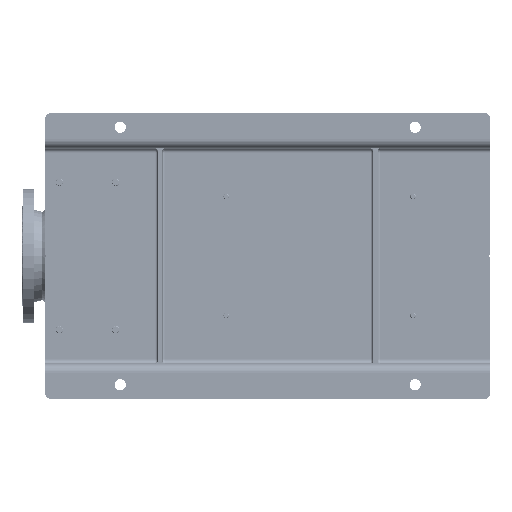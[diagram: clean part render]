
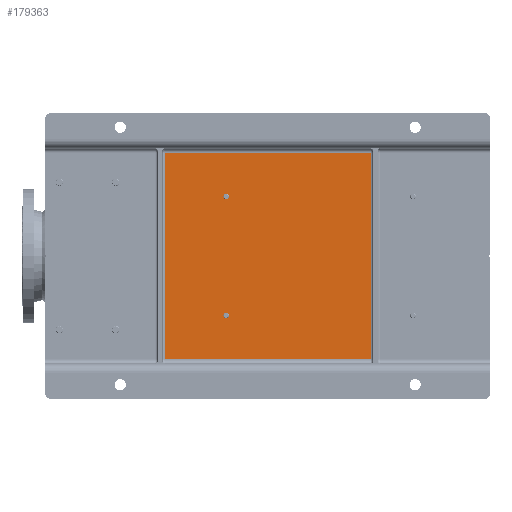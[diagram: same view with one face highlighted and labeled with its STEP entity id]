
A CAD part, front view. The second image highlights one B-rep face of the part: STEP entity #179363.
In plain terms, the highlighted planar face has unit normal (0, -1, 0).
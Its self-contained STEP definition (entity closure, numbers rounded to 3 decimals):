
#1017 = CARTESIAN_POINT ( 'NONE',  ( 432., 65., -380.5 ) ) ;
#2815 = AXIS2_PLACEMENT_3D ( 'NONE', #70438, #12275, #151343 ) ;
#12275 = DIRECTION ( 'NONE',  ( 0., 1., 0. ) ) ;
#23509 = EDGE_CURVE ( 'NONE', #174437, #98859, #147092, .T. ) ;
#25110 = VECTOR ( 'NONE', #171066, 1000. ) ;
#27944 = CARTESIAN_POINT ( 'NONE',  ( 432., 65., -386.5 ) ) ;
#28864 = CIRCLE ( 'NONE', #194423, 6. ) ;
#31185 = CARTESIAN_POINT ( 'NONE',  ( 178., 65., -392.5 ) ) ;
#34035 = EDGE_CURVE ( 'NONE', #98859, #134956, #142361, .T. ) ;
#36905 = PLANE ( 'NONE',  #76645 ) ;
#39398 = FACE_OUTER_BOUND ( 'NONE', #173946, .T. ) ;
#40285 = CIRCLE ( 'NONE', #129098, 6. ) ;
#45772 = VERTEX_POINT ( 'NONE', #181820 ) ;
#46215 = CARTESIAN_POINT ( 'NONE',  ( 525., 65., -250. ) ) ;
#48282 = CARTESIAN_POINT ( 'NONE',  ( 85., 65., -695. ) ) ;
#49402 = ORIENTED_EDGE ( 'NONE', *, *, #190220, .T. ) ;
#50211 = EDGE_LOOP ( 'NONE', ( #181242, #49402 ) ) ;
#55866 = FACE_BOUND ( 'NONE', #50211, .T. ) ;
#63226 = EDGE_CURVE ( 'NONE', #45772, #174437, #154667, .T. ) ;
#64311 = CARTESIAN_POINT ( 'NONE',  ( 525., 65., -255. ) ) ;
#70438 = CARTESIAN_POINT ( 'NONE',  ( 178., 65., -386.5 ) ) ;
#72034 = AXIS2_PLACEMENT_3D ( 'NONE', #77641, #197414, #101262 ) ;
#76645 = AXIS2_PLACEMENT_3D ( 'NONE', #133016, #116539, #210188 ) ;
#77496 = CARTESIAN_POINT ( 'NONE',  ( 85., 65., -700. ) ) ;
#77641 = CARTESIAN_POINT ( 'NONE',  ( 432., 65., -386.5 ) ) ;
#78524 = VERTEX_POINT ( 'NONE', #94211 ) ;
#94211 = CARTESIAN_POINT ( 'NONE',  ( 178., 65., -380.5 ) ) ;
#94581 = VECTOR ( 'NONE', #228688, 1000. ) ;
#98859 = VERTEX_POINT ( 'NONE', #109197 ) ;
#101262 = DIRECTION ( 'NONE',  ( 0., 0., 1. ) ) ;
#103245 = VECTOR ( 'NONE', #133179, 1000. ) ;
#106141 = ORIENTED_EDGE ( 'NONE', *, *, #63226, .T. ) ;
#109197 = CARTESIAN_POINT ( 'NONE',  ( 525., 65., -695. ) ) ;
#112878 = CARTESIAN_POINT ( 'NONE',  ( 75., 65., -695. ) ) ;
#113800 = ORIENTED_EDGE ( 'NONE', *, *, #23509, .T. ) ;
#116539 = DIRECTION ( 'NONE',  ( 0., -1., 0. ) ) ;
#120513 = VERTEX_POINT ( 'NONE', #31185 ) ;
#121729 = DIRECTION ( 'NONE',  ( 0., 0., -1. ) ) ;
#122969 = CARTESIAN_POINT ( 'NONE',  ( 178., 65., -386.5 ) ) ;
#123345 = DIRECTION ( 'NONE',  ( 0., 0., 1. ) ) ;
#128990 = ORIENTED_EDGE ( 'NONE', *, *, #216149, .T. ) ;
#129098 = AXIS2_PLACEMENT_3D ( 'NONE', #27944, #222705, #180985 ) ;
#133016 = CARTESIAN_POINT ( 'NONE',  ( 75., 65., -950. ) ) ;
#133179 = DIRECTION ( 'NONE',  ( 0., 0., -1. ) ) ;
#134956 = VERTEX_POINT ( 'NONE', #64311 ) ;
#142361 = LINE ( 'NONE', #46215, #153186 ) ;
#142496 = ORIENTED_EDGE ( 'NONE', *, *, #34035, .T. ) ;
#147092 = LINE ( 'NONE', #112878, #25110 ) ;
#151343 = DIRECTION ( 'NONE',  ( 0., 0., -1. ) ) ;
#153186 = VECTOR ( 'NONE', #123345, 1000. ) ;
#154667 = LINE ( 'NONE', #77496, #103245 ) ;
#166715 = EDGE_LOOP ( 'NONE', ( #193597, #205179 ) ) ;
#171066 = DIRECTION ( 'NONE',  ( 1., 0., 0. ) ) ;
#173946 = EDGE_LOOP ( 'NONE', ( #106141, #113800, #142496, #128990 ) ) ;
#174437 = VERTEX_POINT ( 'NONE', #48282 ) ;
#174938 = VERTEX_POINT ( 'NONE', #1017 ) ;
#176501 = VERTEX_POINT ( 'NONE', #182709 ) ;
#179363 = ADVANCED_FACE ( 'NONE', ( #212682, #55866, #39398 ), #36905, .T. ) ;
#180985 = DIRECTION ( 'NONE',  ( 0., 0., 1. ) ) ;
#181070 = CIRCLE ( 'NONE', #72034, 6. ) ;
#181242 = ORIENTED_EDGE ( 'NONE', *, *, #210693, .T. ) ;
#181820 = CARTESIAN_POINT ( 'NONE',  ( 85., 65., -255. ) ) ;
#182709 = CARTESIAN_POINT ( 'NONE',  ( 432., 65., -392.5 ) ) ;
#190220 = EDGE_CURVE ( 'NONE', #120513, #78524, #237123, .T. ) ;
#193597 = ORIENTED_EDGE ( 'NONE', *, *, #224283, .T. ) ;
#194423 = AXIS2_PLACEMENT_3D ( 'NONE', #122969, #236770, #121729 ) ;
#197414 = DIRECTION ( 'NONE',  ( 0., 1., 0. ) ) ;
#205179 = ORIENTED_EDGE ( 'NONE', *, *, #241404, .T. ) ;
#210188 = DIRECTION ( 'NONE',  ( 0., 0., -1. ) ) ;
#210693 = EDGE_CURVE ( 'NONE', #78524, #120513, #28864, .T. ) ;
#212682 = FACE_BOUND ( 'NONE', #166715, .T. ) ;
#216149 = EDGE_CURVE ( 'NONE', #134956, #45772, #229947, .T. ) ;
#222705 = DIRECTION ( 'NONE',  ( 0., 1., 0. ) ) ;
#224283 = EDGE_CURVE ( 'NONE', #174938, #176501, #181070, .T. ) ;
#228688 = DIRECTION ( 'NONE',  ( -1., 0., 0. ) ) ;
#229947 = LINE ( 'NONE', #246403, #94581 ) ;
#236770 = DIRECTION ( 'NONE',  ( 0., 1., 0. ) ) ;
#237123 = CIRCLE ( 'NONE', #2815, 6. ) ;
#241404 = EDGE_CURVE ( 'NONE', #176501, #174938, #40285, .T. ) ;
#246403 = CARTESIAN_POINT ( 'NONE',  ( 75., 65., -255. ) ) ;
